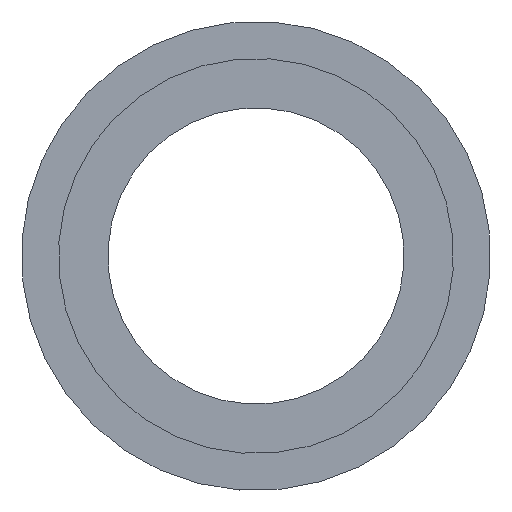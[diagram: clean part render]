
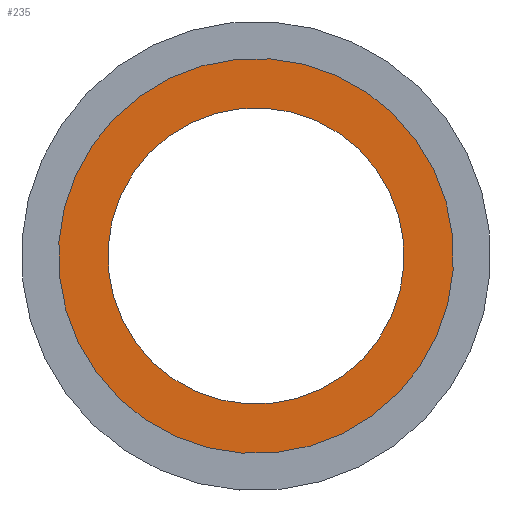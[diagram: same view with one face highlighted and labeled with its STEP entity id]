
A CAD part, left-side view. The second image highlights one B-rep face of the part: STEP entity #235.
In plain terms, the highlighted planar face has unit normal (-1, 0, 0).
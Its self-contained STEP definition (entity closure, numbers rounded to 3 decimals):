
#161=CARTESIAN_POINT('',(-53.5,-7.979,-1.074));
#162=VERTEX_POINT('',#161);
#170=CARTESIAN_POINT('',(-53.5,7.979,0.074));
#171=VERTEX_POINT('',#170);
#178=CARTESIAN_POINT('',(-53.5,0.,-0.5));
#179=DIRECTION('',(0.,0.997,0.072));
#180=DIRECTION('',(1.,0.,0.));
#181=AXIS2_PLACEMENT_3D('',#178,#180,#179);
#182=CIRCLE('',#181,8.);
#183=EDGE_CURVE('',#171,#162,#182,.T.);
#193=CARTESIAN_POINT('',(-53.5,0.,-0.5));
#194=DIRECTION('',(0.,-0.997,-0.072));
#195=DIRECTION('',(1.,0.,0.));
#196=AXIS2_PLACEMENT_3D('',#193,#195,#194);
#197=CIRCLE('',#196,8.);
#198=EDGE_CURVE('',#162,#171,#197,.T.);
#206=CARTESIAN_POINT('',(-53.5,0.,-0.5));
#207=DIRECTION('',(0.,0.997,0.072));
#208=DIRECTION('',(-1.,0.,0.));
#209=AXIS2_PLACEMENT_3D('',#206,#208,#207);
#210=PLANE('',#209);
#211=ORIENTED_EDGE('',*,*,#183,.F.);
#212=ORIENTED_EDGE('',*,*,#198,.F.);
#213=EDGE_LOOP('',(#211,#212));
#214=FACE_OUTER_BOUND('',#213,.T.);
#215=CARTESIAN_POINT('',(-53.5,-5.985,-0.93));
#216=VERTEX_POINT('',#215);
#217=CARTESIAN_POINT('',(-53.5,5.985,-0.07));
#218=VERTEX_POINT('',#217);
#219=CARTESIAN_POINT('',(-53.5,0.,-0.5));
#220=DIRECTION('',(0.,-0.997,-0.072));
#221=DIRECTION('',(1.,0.,0.));
#222=AXIS2_PLACEMENT_3D('',#219,#221,#220);
#223=CIRCLE('',#222,6.);
#224=EDGE_CURVE('',#216,#218,#223,.T.);
#225=ORIENTED_EDGE('E10',*,*,#224,.T.);
#226=CARTESIAN_POINT('',(-53.5,0.,-0.5));
#227=DIRECTION('',(0.,0.997,0.072));
#228=DIRECTION('',(1.,0.,0.));
#229=AXIS2_PLACEMENT_3D('',#226,#228,#227);
#230=CIRCLE('',#229,6.);
#231=EDGE_CURVE('',#218,#216,#230,.T.);
#232=ORIENTED_EDGE('E18',*,*,#231,.T.);
#233=EDGE_LOOP('',(#225,#232));
#234=FACE_BOUND('',#233,.T.);
#235=ADVANCED_FACE('F7',(#214,#234),#210,.T.);
